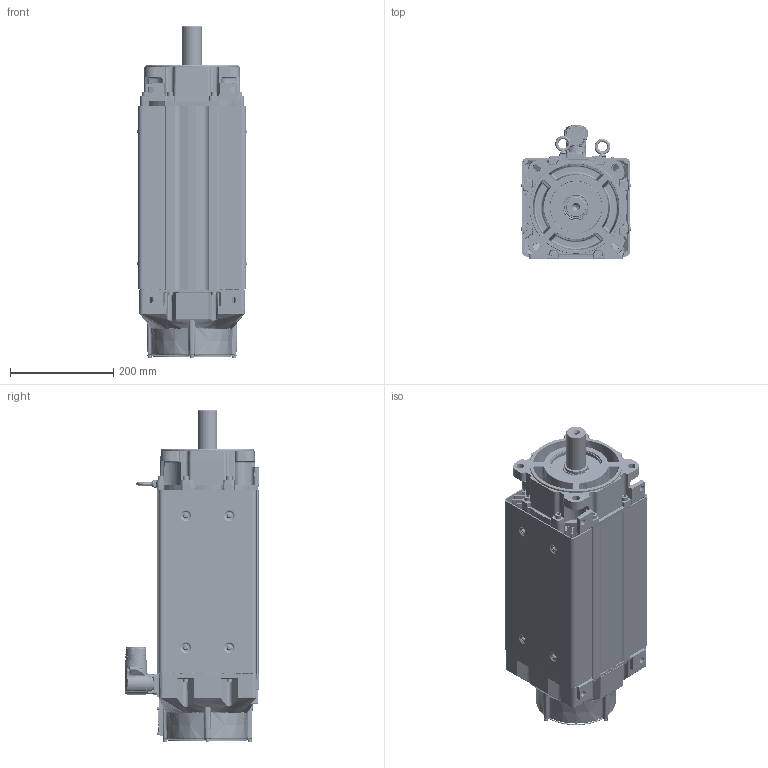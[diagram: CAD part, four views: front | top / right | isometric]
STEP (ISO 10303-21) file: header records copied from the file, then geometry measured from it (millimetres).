
FILE_DESCRIPTION((''),'2;1');
FILE_NAME('VPC-B2156D-QK12FX_ASM','2016-09-27T',('SRGaddam'),('Rockwell Automation'),'PRO/ENGINEER BY PARAMETRIC TECHNOLOGY CORPORATION, 2012480','PRO/ENGINEER BY PARAMETRIC TECHNOLOGY CORPORATION, 2012480','');
FILE_SCHEMA(('CONFIG_CONTROL_DESIGN'));
Products named in the file (41): 10001238886_AF0; 10001298482_AF22; 10001284445_ASM; CH31X150; 10001371613; 10000569218; 10001416323; 10001587021; 10001257630_AF285; 10001300098_AF257; 10001314835_ASM; 10001289764; 10002069468; 10001935397; 10001713570; 10001713572_ASM; 91290A150BR; 10001289776; CH4X050; 10001587458; 91290A115; 10001336508; 10001409703; 10001299929; 10001284567; 10001518963; 91290A148BR; 10001587431; 91290A139BR; 10000231113; 10001289808_ASM; 10001609981; 0002-5005; 10001586886; 10001369859_KEYLESS; 142408_740; PRT0002_740; 142408-1_740_ASM; 221404-Q12; M740_ASM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
Assembly tree (79 placements, depth 4):
  VPC-B2156D-QK12FX_ASM
    10001284445_ASM
      10001238886_AF0
      10001298482_AF22
    CH31X150  x8
    10001371613
    10000569218
    10001416323  x2
    10001587021  x8
    10001314835_ASM
      10001257630_AF285
      10001300098_AF257
    10001289808_ASM
      10001289764
      10002069468
      10001713572_ASM
        10001935397
        10001713570
      91290A150BR  x4
      10001289776
      CH4X050  x2
      10001587458
      91290A115  x5
      10001336508
      10001409703
      10001299929
      10001284567
      10001518963
      91290A148BR  x8
      10001587431
      91290A139BR
      10000231113
    10001609981
    0002-5005  x2
    10001586886  x6
    10001369859_KEYLESS
    M740_ASM
      142408-1_740_ASM
        142408_740
        PRT0002_740
      221404-Q12  x4
Bounding box: 210.91 x 260.15 x 641.61 mm (x, y, z)
Volume: 6186357.6 mm3; surface area: 1968942.2 mm2
Topology: 82 solids, 82 shells, 6595 faces, 15763 edges, 9602 vertices
Faces by surface type: plane 1966, cylinder 1766, bspline 1265, cone 832, torus 596, sphere 135, revolution 30, extrusion 5
Entity records: 231443 total; most frequent: CARTESIAN_POINT 109082, ORIENTED_EDGE 26598, DIRECTION 23649, EDGE_CURVE 13299, AXIS2_PLACEMENT_3D 9300, VERTEX_POINT 8186, EDGE_LOOP 5993, FACE_OUTER_BOUND 5503
